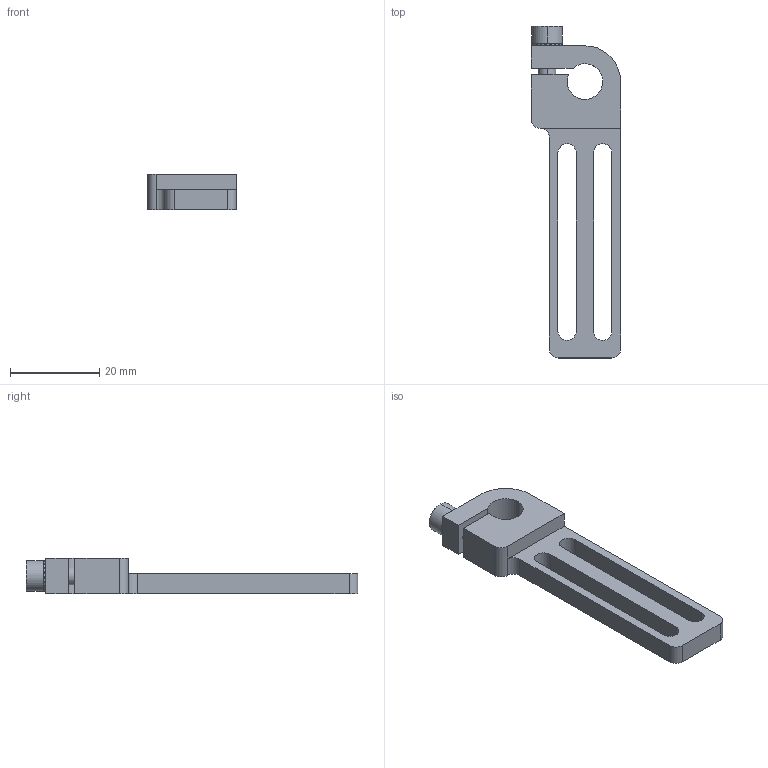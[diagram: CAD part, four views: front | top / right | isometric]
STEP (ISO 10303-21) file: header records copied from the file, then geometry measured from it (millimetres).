
FILE_DESCRIPTION (( 'STEP AP214' ), '1' );
FILE_NAME ('SMBE1-0840.STEP', '2024-08-13T06:06:32', ( '' ), ( '' ), 'SwSTEP 2.0', 'SolidWorks 2022', '' );
FILE_SCHEMA (( 'AUTOMOTIVE_DESIGN' ));
Length unit declared in the file: millimetre
Products named in the file (5): PTC-M4L12.STEP; PTS-M4.STEP; SMBE1-0840.STEP; SMBE1-0840-T.STEP; SMBE1-0840
Assembly tree (4 placements, depth 3):
  SMBE1-0840
    SMBE1-0840-T.STEP
      SMBE1-0840.STEP
      PTC-M4L12.STEP
      PTS-M4.STEP
Bounding box: 20 x 74.45 x 8 mm (x, y, z)
Volume: 4555.3 mm3; surface area: 4274.3 mm2
Topology: 3 solids, 3 shells, 217 faces, 623 edges, 413 vertices
Faces by surface type: plane 187, cylinder 24, cone 6
Entity records: 7351 total; most frequent: DIRECTION 1287, CARTESIAN_POINT 1261, ORIENTED_EDGE 1246, EDGE_CURVE 623, AXIS2_PLACEMENT_3D 439, VERTEX_POINT 413, LINE 409, VECTOR 409
